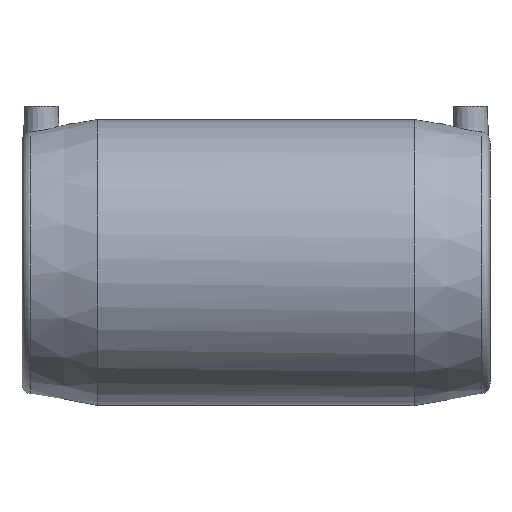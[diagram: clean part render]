
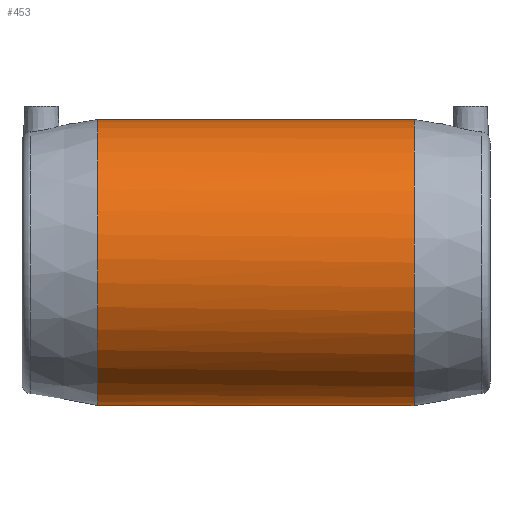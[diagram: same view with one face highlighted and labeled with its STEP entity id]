
A CAD part, front view. The second image highlights one B-rep face of the part: STEP entity #453.
In plain terms, the highlighted cylindrical face has radius 81 mm (diameter 162 mm), a full revolution.
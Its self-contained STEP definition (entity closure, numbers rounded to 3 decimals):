
#52=CYLINDRICAL_SURFACE('',#522,81.);
#66=B_SPLINE_CURVE_WITH_KNOTS('',3,(#1205,#1206,#1207,#1208,#1209,#1210,
#1211,#1212,#1213,#1214,#1215,#1216,#1217,#1218,#1219,#1220,#1221,#1222,
#1223,#1224,#1225,#1226,#1227,#1228,#1229,#1230,#1231,#1232,#1233,#1234,
#1235,#1236,#1237,#1238,#1239,#1240,#1241,#1242,#1243,#1244,#1245,#1246,
#1247,#1248,#1249,#1250,#1251,#1252,#1253,#1254,#1255,#1256,#1257,#1258,
#1259,#1260,#1261,#1262,#1263,#1264,#1265,#1266,#1267,#1268,#1269),
 .UNSPECIFIED.,.T.,.F.,(1,1,1,1,1,1,1,1,1,1,1,1,1,1,1,1,1,1,1,1,1,1,1,1,
1,1,1,1,1,1,1,1,1,1,1,1,1,1,1,1,1,1,1,1,1,1,1,1,1,1,1,1,1,1,1,1,1,1,1,1,
1,1,1,1,1,1,1,1,1),(-0.022,-0.014,-0.007,
0.,0.007,0.014,0.022,
0.029,0.043,0.051,0.058,
0.065,0.072,0.08,0.087,
0.094,0.101,0.109,0.116,
0.123,0.13,0.138,0.145,
0.152,0.159,0.167,0.174,
0.181,0.188,0.196,0.203,
0.21,0.217,0.225,0.232,
0.239,0.246,0.254,0.261,
0.275,0.283,0.29,0.297,
0.304,0.312,0.319,0.326,
0.333,0.341,0.348,0.355,
0.362,0.37,0.377,0.384,
0.391,0.399,0.406,0.413,
0.42,0.428,0.435,0.442,
0.449,0.457,0.464,0.471,
0.478,0.486),.UNSPECIFIED.);
#137=ORIENTED_EDGE('',*,*,#200,.T.);
#138=ORIENTED_EDGE('',*,*,#199,.F.);
#139=ORIENTED_EDGE('',*,*,#203,.T.);
#199=EDGE_CURVE('',#244,#244,#271,.T.);
#200=EDGE_CURVE('',#245,#245,#66,.T.);
#203=EDGE_CURVE('',#247,#247,#274,.T.);
#244=VERTEX_POINT('',#982);
#245=VERTEX_POINT('',#1270);
#247=VERTEX_POINT('',#1278);
#271=CIRCLE('',#517,81.);
#274=CIRCLE('',#523,81.);
#330=EDGE_LOOP('',(#137));
#331=EDGE_LOOP('',(#138));
#332=EDGE_LOOP('',(#139));
#398=FACE_BOUND('',#330,.T.);
#399=FACE_BOUND('',#331,.T.);
#400=FACE_BOUND('',#332,.T.);
#453=ADVANCED_FACE('',(#398,#399,#400),#52,.T.);
#517=AXIS2_PLACEMENT_3D('',#981,#621,#622);
#522=AXIS2_PLACEMENT_3D('',#1276,#631,#632);
#523=AXIS2_PLACEMENT_3D('',#1277,#633,#634);
#621=DIRECTION('',(-1.,0.,0.));
#622=DIRECTION('',(0.,0.,1.));
#631=DIRECTION('',(-1.,0.,0.));
#632=DIRECTION('',(0.,0.,1.));
#633=DIRECTION('',(-1.,0.,0.));
#634=DIRECTION('',(0.,0.,1.));
#981=CARTESIAN_POINT('',(-89.5,0.,0.));
#982=CARTESIAN_POINT('',(-89.5,0.,81.));
#1205=CARTESIAN_POINT('',(70.227,80.784,-7.243));
#1206=CARTESIAN_POINT('',(70.637,81.108,-0.004));
#1207=CARTESIAN_POINT('',(70.225,80.782,7.259));
#1208=CARTESIAN_POINT('',(69.009,79.824,14.335));
#1209=CARTESIAN_POINT('',(67.079,78.314,21.062));
#1210=CARTESIAN_POINT('',(63.562,75.594,29.685));
#1211=CARTESIAN_POINT('',(58.93,72.087,37.316));
#1212=CARTESIAN_POINT('',(53.343,68.036,44.079));
#1213=CARTESIAN_POINT('',(48.814,64.87,48.605));
#1214=CARTESIAN_POINT('',(43.926,61.608,52.669));
#1215=CARTESIAN_POINT('',(38.657,58.302,56.297));
#1216=CARTESIAN_POINT('',(33.026,55.056,59.464));
#1217=CARTESIAN_POINT('',(27.111,52.025,62.122));
#1218=CARTESIAN_POINT('',(20.825,49.301,64.294));
#1219=CARTESIAN_POINT('',(14.102,47.065,65.936));
#1220=CARTESIAN_POINT('',(7.148,45.593,66.953));
#1221=CARTESIAN_POINT('',(-0.128,45.074,67.3));
#1222=CARTESIAN_POINT('',(-7.249,45.61,66.942));
#1223=CARTESIAN_POINT('',(-14.315,47.123,65.895));
#1224=CARTESIAN_POINT('',(-20.917,49.339,64.264));
#1225=CARTESIAN_POINT('',(-27.246,52.087,62.071));
#1226=CARTESIAN_POINT('',(-33.187,55.146,59.381));
#1227=CARTESIAN_POINT('',(-38.744,58.356,56.239));
#1228=CARTESIAN_POINT('',(-43.972,61.638,52.635));
#1229=CARTESIAN_POINT('',(-48.92,64.942,48.512));
#1230=CARTESIAN_POINT('',(-53.459,68.119,43.949));
#1231=CARTESIAN_POINT('',(-57.569,71.101,38.954));
#1232=CARTESIAN_POINT('',(-61.242,73.838,33.5));
#1233=CARTESIAN_POINT('',(-64.47,76.295,27.472));
#1234=CARTESIAN_POINT('',(-67.072,78.309,21.071));
#1235=CARTESIAN_POINT('',(-69.012,79.826,14.336));
#1236=CARTESIAN_POINT('',(-70.229,80.786,7.2));
#1237=CARTESIAN_POINT('',(-70.635,81.107,0.061));
#1238=CARTESIAN_POINT('',(-70.229,80.785,-7.219));
#1239=CARTESIAN_POINT('',(-69.031,79.841,-14.23));
#1240=CARTESIAN_POINT('',(-67.116,78.343,-20.957));
#1241=CARTESIAN_POINT('',(-63.608,75.629,-29.595));
#1242=CARTESIAN_POINT('',(-58.998,72.137,-37.219));
#1243=CARTESIAN_POINT('',(-53.411,68.085,-44.005));
#1244=CARTESIAN_POINT('',(-48.883,64.917,-48.542));
#1245=CARTESIAN_POINT('',(-43.998,61.654,-52.614));
#1246=CARTESIAN_POINT('',(-38.741,58.353,-56.244));
#1247=CARTESIAN_POINT('',(-33.104,55.099,-59.424));
#1248=CARTESIAN_POINT('',(-27.187,52.062,-62.091));
#1249=CARTESIAN_POINT('',(-20.908,49.333,-64.27));
#1250=CARTESIAN_POINT('',(-14.182,47.087,-65.921));
#1251=CARTESIAN_POINT('',(-7.232,45.605,-66.945));
#1252=CARTESIAN_POINT('',(0.05,45.074,-67.3));
#1253=CARTESIAN_POINT('',(7.174,45.599,-66.949));
#1254=CARTESIAN_POINT('',(14.247,47.103,-65.909));
#1255=CARTESIAN_POINT('',(20.858,49.316,-64.282));
#1256=CARTESIAN_POINT('',(27.187,52.058,-62.095));
#1257=CARTESIAN_POINT('',(33.14,55.12,-59.405));
#1258=CARTESIAN_POINT('',(38.701,58.33,-56.266));
#1259=CARTESIAN_POINT('',(43.933,61.612,-52.664));
#1260=CARTESIAN_POINT('',(48.882,64.916,-48.547));
#1261=CARTESIAN_POINT('',(53.431,68.1,-43.98));
#1262=CARTESIAN_POINT('',(57.545,71.083,-38.986));
#1263=CARTESIAN_POINT('',(61.22,73.822,-33.535));
#1264=CARTESIAN_POINT('',(64.449,76.28,-27.516));
#1265=CARTESIAN_POINT('',(67.062,78.301,-21.104));
#1266=CARTESIAN_POINT('',(69.003,79.819,-14.371));
#1267=CARTESIAN_POINT('',(70.227,80.784,-7.243));
#1268=CARTESIAN_POINT('',(70.637,81.108,-0.004));
#1269=CARTESIAN_POINT('',(70.225,80.782,7.259));
#1270=CARTESIAN_POINT('',(70.5,81.,0.));
#1276=CARTESIAN_POINT('',(-60.,0.,0.));
#1277=CARTESIAN_POINT('',(89.5,0.,0.));
#1278=CARTESIAN_POINT('',(89.5,0.,81.));
